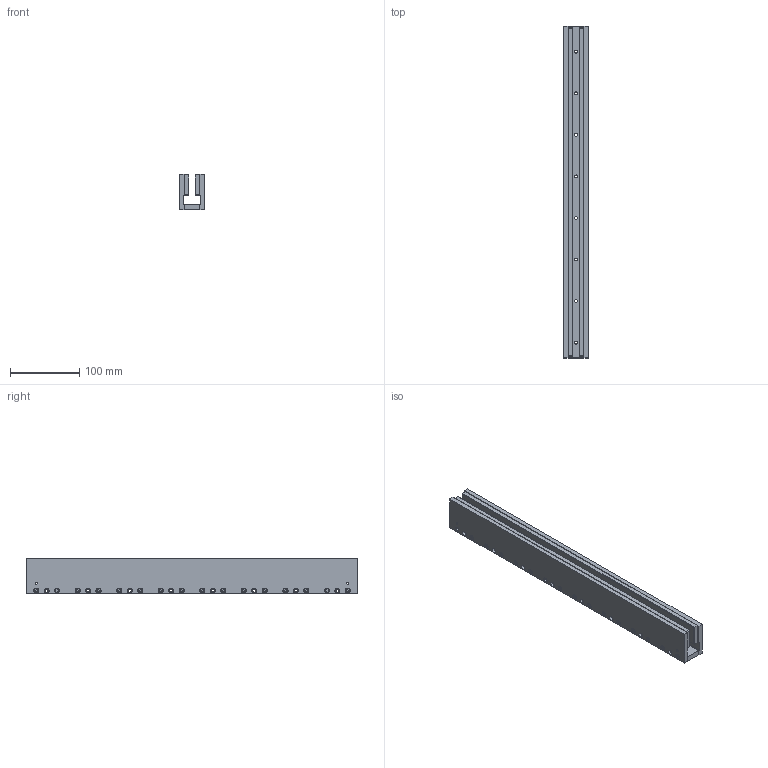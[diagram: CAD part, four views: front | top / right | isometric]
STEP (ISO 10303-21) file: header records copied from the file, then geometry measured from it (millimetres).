
FILE_DESCRIPTION (( 'STEP AP203' ), '1' );
FILE_NAME ('DX30F-TL480.step', '2021-01-04T10:14:15', ( '' ), ( '' ), 'SwSTEP 2.0', 'SolidWorks 2020', '' );
FILE_SCHEMA (( 'CONFIG_CONTROL_DESIGN' ));
Length unit declared in the file: millimetre
Products named in the file (1): DX30F-TL480
Bounding box: 35.7 x 479.5 x 50.8 mm (x, y, z)
Volume: 562946.5 mm3; surface area: 157230.5 mm2
Topology: 1 solids, 49 shells, 944 faces, 2044 edges, 1312 vertices
Faces by surface type: plane 448, cylinder 416, torus 64, sphere 16
Entity records: 25981 total; most frequent: DIRECTION 4878, CARTESIAN_POINT 4285, ORIENTED_EDGE 4056, EDGE_CURVE 2028, AXIS2_PLACEMENT_3D 1905, VERTEX_POINT 1312, EDGE_LOOP 1178, LINE 1068
